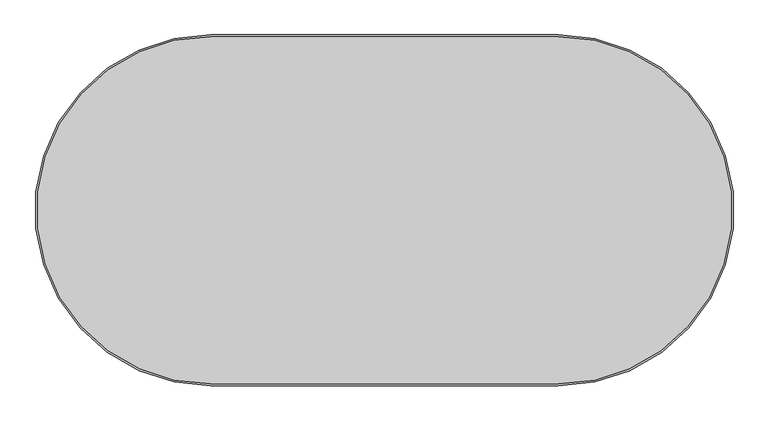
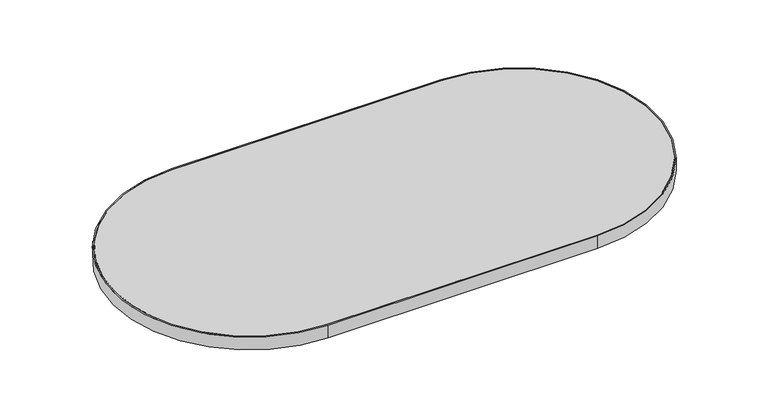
"""IFC4 building model written with IfcOpenShell, lengths in millimetres: furniture geometry, Steelcase - Answer Solution - Universal Table - Capsule - 3mm Edge : 24D x 48W."""

from ifc_helpers import new_model, si_unit, point, frame, frame_2d, origin, place, context, project, spatial, polyline, circle_curve, trimmed, segment, composite_curve, outline, extrude, source, transform, mapped, element, save


def furniture_9fccd9ab(model_context):
    return source(origin(), model_context, "Body", "SweptSolid", [
        extrude(outline(composite_curve([segment(trimmed(circle_curve(frame_2d((304.8, 0.0)), 307.8), [point((304.8, 307.8))], [point((304.8, -307.8))], False, "CARTESIAN"), True, "CONTINUOUS"), segment(polyline([(304.8, -307.8), (-304.8, -307.8)]), True, "CONTINUOUS"), segment(trimmed(circle_curve(frame_2d((-304.8, 0.0)), 307.8), [point((-304.8, -307.8))], [point((-304.8, 307.8))], False, "CARTESIAN"), True, "CONTINUOUS"), segment(polyline([(-304.8, 307.8), (304.8, 307.8)]), True, "CONTINUOUS")], self_intersect=False), holes=[composite_curve([segment(trimmed(circle_curve(frame_2d((-304.8, 0.0)), 304.8), [point((-304.8, 304.8))], [point((-304.8, -304.8))], True, "CARTESIAN"), True, "CONTINUOUS"), segment(polyline([(-304.8, -304.8), (304.8, -304.8)]), True, "CONTINUOUS"), segment(trimmed(circle_curve(frame_2d((304.8, 0.0)), 304.8), [point((304.8, -304.8))], [point((304.8, 304.8))], True, "CARTESIAN"), True, "CONTINUOUS"), segment(polyline([(304.8, 304.8), (-304.8, 304.8)]), True, "CONTINUOUS")], self_intersect=False)]), frame((0.0, 0.0, 668.274), z_axis=(0.0, 0.0, 1.0), x_axis=(1.0, 0.0, 0.0)), (0.0, 0.0, 1.0), 30.0990349),
        extrude(outline(composite_curve([segment(polyline([(-304.8, 304.8), (304.8, 304.8)]), True, "CONTINUOUS"), segment(trimmed(circle_curve(frame_2d((304.8, 0.0)), 304.8), [point((304.8, 304.8))], [point((304.8, -304.8))], False, "CARTESIAN"), True, "CONTINUOUS"), segment(polyline([(304.8, -304.8), (-304.8, -304.8)]), True, "CONTINUOUS"), segment(trimmed(circle_curve(frame_2d((-304.8, 0.0)), 304.8), [point((-304.8, -304.8))], [point((-304.8, 304.8))], False, "CARTESIAN"), True, "CONTINUOUS")], self_intersect=False)), frame((0.0, 0.0, 668.274), z_axis=(0.0, 0.0, 1.0), x_axis=(1.0, 0.0, 0.0)), (0.0, 0.0, 1.0), 30.0990349),
    ])


if __name__ == "__main__":
    model = new_model("IFC4")
    model_context = context("Model", 3, world=origin())
    ifc_project = project(units=[si_unit("LENGTHUNIT", "METRE", prefix="MILLI")], contexts=[model_context])
    site = spatial("IfcSite", under=ifc_project)
    building = spatial("IfcBuilding", under=site)
    placement = place(None, origin())
    furniture_shape = furniture_9fccd9ab(model_context)
    element("IfcFurniture", 1, ObjectType="Steelcase - Answer Solution - Universal Table - Capsule - 3mm Edge : 24D x 48W", at=placement, inside=building, context=model_context, shape_type="MappedRepresentation", body=[
        mapped(furniture_shape, transform((0.0, 0.0, 0.0), x_axis=(1.0, 0.0, 0.0), y_axis=(0.0, 1.0, 0.0), z_axis=(0.0, 0.0, 1.0))),
    ])
    save(model, "model.ifc")
